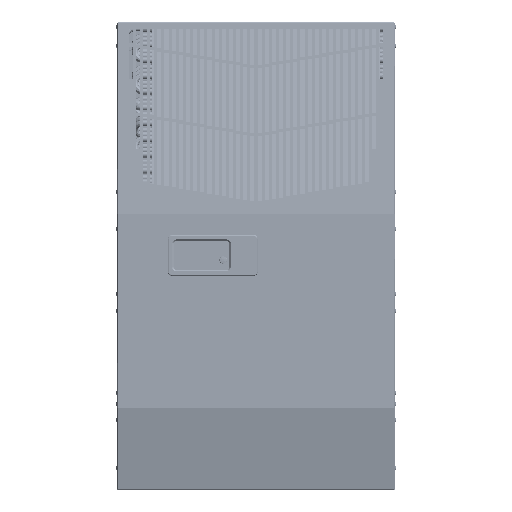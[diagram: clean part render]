
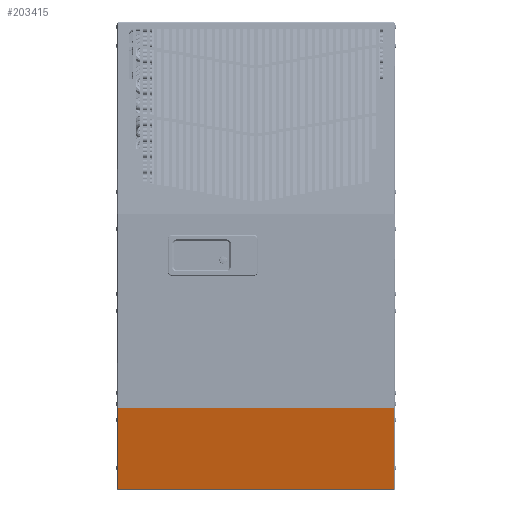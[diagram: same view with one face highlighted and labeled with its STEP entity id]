
A CAD part, top view. The second image highlights one B-rep face of the part: STEP entity #203415.
In plain terms, the highlighted planar face has unit normal (0, -0.212, 0.977).
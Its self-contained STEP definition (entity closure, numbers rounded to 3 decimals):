
#8616 = VERTEX_POINT ( 'NONE', #62891 ) ;
#8720 = VERTEX_POINT ( 'NONE', #62973 ) ;
#8872 = VERTEX_POINT ( 'NONE', #63088 ) ;
#9022 = VERTEX_POINT ( 'NONE', #63201 ) ;
#9071 = VERTEX_POINT ( 'NONE', #63241 ) ;
#9209 = VERTEX_POINT ( 'NONE', #63349 ) ;
#31096 = VERTEX_POINT ( 'NONE', #97543 ) ;
#31215 = VERTEX_POINT ( 'NONE', #97662 ) ;
#31224 = VERTEX_POINT ( 'NONE', #97671 ) ;
#31320 = VERTEX_POINT ( 'NONE', #97767 ) ;
#31425 = VERTEX_POINT ( 'NONE', #97860 ) ;
#31802 = VERTEX_POINT ( 'NONE', #98214 ) ;
#62891 = CARTESIAN_POINT ( 'NONE',  ( -8.404, -23.605, 10.173 ) ) ;
#62973 = CARTESIAN_POINT ( 'NONE',  ( -0.344, -23.612, 10.172 ) ) ;
#63088 = CARTESIAN_POINT ( 'NONE',  ( 0.094, -23.612, 10.172 ) ) ;
#63201 = CARTESIAN_POINT ( 'NONE',  ( -0.094, -23.612, 10.172 ) ) ;
#63241 = CARTESIAN_POINT ( 'NONE',  ( 0.344, -23.612, 10.172 ) ) ;
#63349 = CARTESIAN_POINT ( 'NONE',  ( -0.094, -23.605, 10.173 ) ) ;
#97543 = CARTESIAN_POINT ( 'NONE',  ( 0.344, -23.605, 10.173 ) ) ;
#97662 = CARTESIAN_POINT ( 'NONE',  ( -0.344, -23.605, 10.173 ) ) ;
#97671 = CARTESIAN_POINT ( 'NONE',  ( 8.404, -28.54, 9.102 ) ) ;
#97767 = CARTESIAN_POINT ( 'NONE',  ( -8.404, -28.54, 9.102 ) ) ;
#97860 = CARTESIAN_POINT ( 'NONE',  ( 0.094, -23.605, 10.173 ) ) ;
#98214 = CARTESIAN_POINT ( 'NONE',  ( 8.404, -23.605, 10.173 ) ) ;
#173066 = AXIS2_PLACEMENT_3D ( 'NONE', #244182, #244189, #244190 ) ;
#187841 = EDGE_CURVE ( 'NONE', #8872, #9071, #190295, .T. ) ;
#187843 = EDGE_CURVE ( 'NONE', #31425, #8872, #190301, .T. ) ;
#187845 = EDGE_CURVE ( 'NONE', #31224, #31802, #190306, .T. ) ;
#187849 = EDGE_CURVE ( 'NONE', #31224, #31320, #190318, .T. ) ;
#187851 = EDGE_CURVE ( 'NONE', #31320, #8616, #190197, .T. ) ;
#187960 = EDGE_CURVE ( 'NONE', #9071, #31096, #190511, .T. ) ;
#188010 = EDGE_CURVE ( 'NONE', #9209, #9022, #190708, .T. ) ;
#188062 = EDGE_CURVE ( 'NONE', #31802, #31096, #190832, .T. ) ;
#188064 = EDGE_CURVE ( 'NONE', #8720, #31215, #190847, .T. ) ;
#188068 = EDGE_CURVE ( 'NONE', #31425, #9209, #190829, .T. ) ;
#188131 = EDGE_CURVE ( 'NONE', #9022, #8720, #191008, .T. ) ;
#188133 = EDGE_CURVE ( 'NONE', #31215, #8616, #191013, .T. ) ;
#190197 = LINE ( 'NONE', #196443, #190323 ) ;
#190295 = LINE ( 'NONE', #196429, #190298 ) ;
#190298 = VECTOR ( 'NONE', #196431, 39.37 ) ;
#190301 = LINE ( 'NONE', #196434, #190304 ) ;
#190304 = VECTOR ( 'NONE', #196436, 39.37 ) ;
#190306 = LINE ( 'NONE', #196439, #190309 ) ;
#190309 = VECTOR ( 'NONE', #196441, 39.37 ) ;
#190318 = LINE ( 'NONE', #196449, #190320 ) ;
#190320 = VECTOR ( 'NONE', #196451, 39.37 ) ;
#190323 = VECTOR ( 'NONE', #196453, 39.37 ) ;
#190511 = LINE ( 'NONE', #196674, #190582 ) ;
#190582 = VECTOR ( 'NONE', #196682, 39.37 ) ;
#190708 = LINE ( 'NONE', #196781, #190711 ) ;
#190711 = VECTOR ( 'NONE', #196783, 39.37 ) ;
#190829 = LINE ( 'NONE', #196895, #190841 ) ;
#190832 = LINE ( 'NONE', #196883, #190835 ) ;
#190835 = VECTOR ( 'NONE', #196885, 39.37 ) ;
#190841 = VECTOR ( 'NONE', #196897, 39.37 ) ;
#190847 = LINE ( 'NONE', #196887, #190849 ) ;
#190849 = VECTOR ( 'NONE', #196888, 39.37 ) ;
#191008 = LINE ( 'NONE', #197015, #191011 ) ;
#191011 = VECTOR ( 'NONE', #197017, 39.37 ) ;
#191013 = LINE ( 'NONE', #197019, #191016 ) ;
#191016 = VECTOR ( 'NONE', #197021, 39.37 ) ;
#196429 = CARTESIAN_POINT ( 'NONE',  ( 8.404, -23.612, 10.172 ) ) ;
#196431 = DIRECTION ( 'NONE',  ( 1., 0., 0. ) ) ;
#196434 = CARTESIAN_POINT ( 'NONE',  ( 0.094, -28.54, 9.102 ) ) ;
#196436 = DIRECTION ( 'NONE',  ( 0., -0.977, -0.212 ) ) ;
#196439 = CARTESIAN_POINT ( 'NONE',  ( 8.404, -28.54, 9.102 ) ) ;
#196441 = DIRECTION ( 'NONE',  ( 0., 0.977, 0.212 ) ) ;
#196443 = CARTESIAN_POINT ( 'NONE',  ( -8.404, -28.54, 9.102 ) ) ;
#196449 = CARTESIAN_POINT ( 'NONE',  ( 8.404, -28.54, 9.102 ) ) ;
#196451 = DIRECTION ( 'NONE',  ( -1., 0., 0. ) ) ;
#196453 = DIRECTION ( 'NONE',  ( 0., 0.977, 0.212 ) ) ;
#196674 = CARTESIAN_POINT ( 'NONE',  ( 0.344, -28.54, 9.102 ) ) ;
#196682 = DIRECTION ( 'NONE',  ( 0., 0.977, 0.212 ) ) ;
#196781 = CARTESIAN_POINT ( 'NONE',  ( -0.094, -28.54, 9.102 ) ) ;
#196783 = DIRECTION ( 'NONE',  ( 0., -0.977, -0.212 ) ) ;
#196883 = CARTESIAN_POINT ( 'NONE',  ( 8.404, -23.605, 10.173 ) ) ;
#196885 = DIRECTION ( 'NONE',  ( -1., 0., 0. ) ) ;
#196887 = CARTESIAN_POINT ( 'NONE',  ( -0.344, -28.54, 9.102 ) ) ;
#196888 = DIRECTION ( 'NONE',  ( 0., 0.977, 0.212 ) ) ;
#196895 = CARTESIAN_POINT ( 'NONE',  ( 8.404, -23.605, 10.173 ) ) ;
#196897 = DIRECTION ( 'NONE',  ( -1., 0., 0. ) ) ;
#197015 = CARTESIAN_POINT ( 'NONE',  ( 8.404, -23.612, 10.172 ) ) ;
#197017 = DIRECTION ( 'NONE',  ( -1., 0., 0. ) ) ;
#197019 = CARTESIAN_POINT ( 'NONE',  ( 8.404, -23.605, 10.173 ) ) ;
#197021 = DIRECTION ( 'NONE',  ( -1., 0., 0. ) ) ;
#203415 = ADVANCED_FACE ( 'NONE', ( #234739 ), #244186, .T. ) ;
#231504 = EDGE_LOOP ( 'NONE', ( #248105, #248111, #248119, #248127, #248134, #248142, #248147, #248156, #248165, #248171, #248179, #248184 ) ) ;
#234739 = FACE_OUTER_BOUND ( 'NONE', #231504, .T. ) ;
#244182 = CARTESIAN_POINT ( 'NONE',  ( 8.404, -28.54, 9.102 ) ) ;
#244186 = PLANE ( 'NONE',  #173066 ) ;
#244189 = DIRECTION ( 'NONE',  ( 0., -0.212, 0.977 ) ) ;
#244190 = DIRECTION ( 'NONE',  ( 0., -0.977, -0.212 ) ) ;
#248105 = ORIENTED_EDGE ( 'NONE', *, *, #187841, .F. ) ;
#248111 = ORIENTED_EDGE ( 'NONE', *, *, #187843, .F. ) ;
#248119 = ORIENTED_EDGE ( 'NONE', *, *, #188068, .T. ) ;
#248127 = ORIENTED_EDGE ( 'NONE', *, *, #188010, .T. ) ;
#248134 = ORIENTED_EDGE ( 'NONE', *, *, #188131, .T. ) ;
#248142 = ORIENTED_EDGE ( 'NONE', *, *, #188064, .T. ) ;
#248147 = ORIENTED_EDGE ( 'NONE', *, *, #188133, .T. ) ;
#248156 = ORIENTED_EDGE ( 'NONE', *, *, #187851, .F. ) ;
#248165 = ORIENTED_EDGE ( 'NONE', *, *, #187849, .F. ) ;
#248171 = ORIENTED_EDGE ( 'NONE', *, *, #187845, .T. ) ;
#248179 = ORIENTED_EDGE ( 'NONE', *, *, #188062, .T. ) ;
#248184 = ORIENTED_EDGE ( 'NONE', *, *, #187960, .F. ) ;
